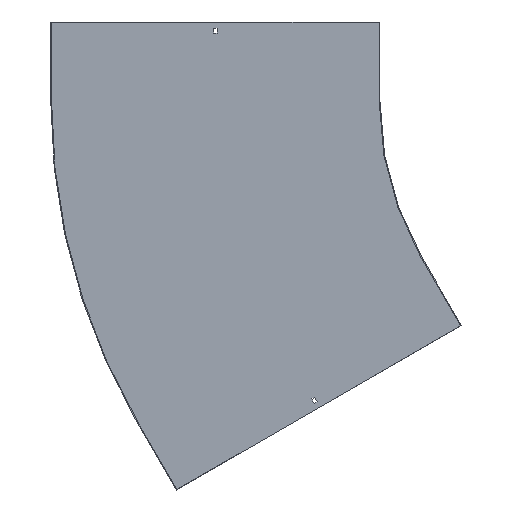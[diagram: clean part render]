
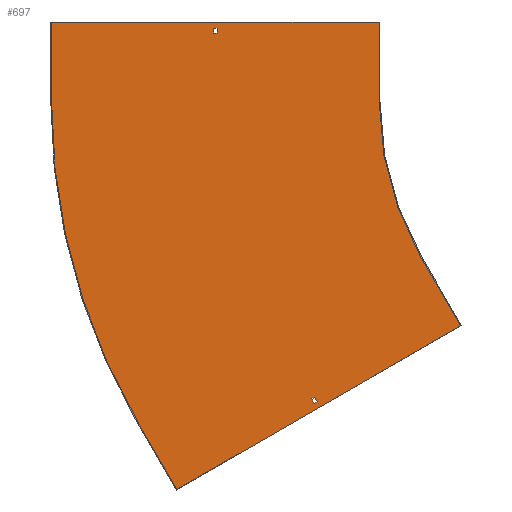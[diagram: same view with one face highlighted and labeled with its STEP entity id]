
A CAD part, front view. The second image highlights one B-rep face of the part: STEP entity #697.
In plain terms, the highlighted planar face has unit normal (0, -1, 0).
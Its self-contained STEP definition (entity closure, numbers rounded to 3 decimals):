
#6 = EDGE_LOOP ( 'NONE', ( #72, #561, #757, #704 ) ) ;
#11 = EDGE_CURVE ( 'NONE', #64, #202, #39, .T. ) ;
#21 = LINE ( 'NONE', #294, #384 ) ;
#28 = VECTOR ( 'NONE', #166, 1000. ) ;
#38 = LINE ( 'NONE', #501, #759 ) ;
#39 = LINE ( 'NONE', #703, #28 ) ;
#42 = LINE ( 'NONE', #842, #300 ) ;
#51 = CARTESIAN_POINT ( 'NONE',  ( -510.955, -1.5, -295. ) ) ;
#53 = EDGE_CURVE ( 'NONE', #118, #194, #42, .T. ) ;
#61 = EDGE_CURVE ( 'NONE', #629, #506, #516, .T. ) ;
#64 = VERTEX_POINT ( 'NONE', #778 ) ;
#66 = DIRECTION ( 'NONE',  ( 0., 0., 1. ) ) ;
#72 = ORIENTED_EDGE ( 'NONE', *, *, #705, .F. ) ;
#83 = CARTESIAN_POINT ( 'NONE',  ( -896.75, -1.5, 138. ) ) ;
#84 = VECTOR ( 'NONE', #365, 1000. ) ;
#91 = CARTESIAN_POINT ( 'NONE',  ( -776.608, -1.5, -448.375 ) ) ;
#95 = DIRECTION ( 'NONE',  ( 0.5, 0., -0.866 ) ) ;
#100 = EDGE_CURVE ( 'NONE', #288, #212, #850, .T. ) ;
#118 = VERTEX_POINT ( 'NONE', #51 ) ;
#130 = DIRECTION ( 'NONE',  ( 0., 0., -1. ) ) ;
#131 = VERTEX_POINT ( 'NONE', #467 ) ;
#146 = CARTESIAN_POINT ( 'NONE',  ( -903.25, -1.5, 138. ) ) ;
#153 = EDGE_CURVE ( 'NONE', #856, #131, #604, .T. ) ;
#156 = DIRECTION ( 'NONE',  ( -0.5, 0., 0.866 ) ) ;
#160 = EDGE_CURVE ( 'NONE', #131, #64, #792, .T. ) ;
#161 = PLANE ( 'NONE',  #527 ) ;
#164 = EDGE_CURVE ( 'NONE', #512, #856, #463, .T. ) ;
#165 = LINE ( 'NONE', #695, #248 ) ;
#166 = DIRECTION ( 'NONE',  ( 1., 0., 0. ) ) ;
#167 = VERTEX_POINT ( 'NONE', #654 ) ;
#169 = DIRECTION ( 'NONE',  ( 0., 0., -1. ) ) ;
#188 = VECTOR ( 'NONE', #668, 1000. ) ;
#192 = CARTESIAN_POINT ( 'NONE',  ( 0., -1.5, 138. ) ) ;
#193 = DIRECTION ( 'NONE',  ( 0., -1., 0. ) ) ;
#194 = VERTEX_POINT ( 'NONE', #397 ) ;
#202 = VERTEX_POINT ( 'NONE', #861 ) ;
#212 = VERTEX_POINT ( 'NONE', #83 ) ;
#215 = VERTEX_POINT ( 'NONE', #347 ) ;
#222 = DIRECTION ( 'NONE',  ( -0.866, 0., -0.5 ) ) ;
#238 = ORIENTED_EDGE ( 'NONE', *, *, #471, .T. ) ;
#241 = CARTESIAN_POINT ( 'NONE',  ( -903.25, -1.5, 129. ) ) ;
#247 = EDGE_CURVE ( 'NONE', #215, #167, #751, .T. ) ;
#248 = VECTOR ( 'NONE', #95, 1000. ) ;
#249 = VERTEX_POINT ( 'NONE', #809 ) ;
#251 = DIRECTION ( 'NONE',  ( 0.5, 0., -0.866 ) ) ;
#252 = CARTESIAN_POINT ( 'NONE',  ( 0., -1.5, 0. ) ) ;
#274 = CARTESIAN_POINT ( 'NONE',  ( -1210., -1.5, 0. ) ) ;
#277 = VECTOR ( 'NONE', #282, 1000. ) ;
#282 = DIRECTION ( 'NONE',  ( -1., 0., 0. ) ) ;
#288 = VERTEX_POINT ( 'NONE', #146 ) ;
#289 = CIRCLE ( 'NONE', #344, 590. ) ;
#294 = CARTESIAN_POINT ( 'NONE',  ( -590., -1.5, 150. ) ) ;
#300 = VECTOR ( 'NONE', #251, 1000. ) ;
#301 = CARTESIAN_POINT ( 'NONE',  ( -896.75, -1.5, 129. ) ) ;
#309 = LINE ( 'NONE', #442, #84 ) ;
#332 = DIRECTION ( 'NONE',  ( 1., 0., 0. ) ) ;
#343 = LINE ( 'NONE', #610, #277 ) ;
#344 = AXIS2_PLACEMENT_3D ( 'NONE', #252, #193, #655 ) ;
#347 = CARTESIAN_POINT ( 'NONE',  ( -712.108, -1.5, -560.092 ) ) ;
#349 = EDGE_CURVE ( 'NONE', #665, #288, #309, .T. ) ;
#353 = VECTOR ( 'NONE', #635, 1000. ) ;
#365 = DIRECTION ( 'NONE',  ( 0., 0., 1. ) ) ;
#368 = CARTESIAN_POINT ( 'NONE',  ( 69., -1.5, -119.512 ) ) ;
#384 = VECTOR ( 'NONE', #429, 1000. ) ;
#397 = CARTESIAN_POINT ( 'NONE',  ( -435.955, -1.5, -424.904 ) ) ;
#406 = DIRECTION ( 'NONE',  ( 0., 1., 0. ) ) ;
#413 = VECTOR ( 'NONE', #522, 1000. ) ;
#415 = VERTEX_POINT ( 'NONE', #301 ) ;
#429 = DIRECTION ( 'NONE',  ( 0., 0., -1. ) ) ;
#435 = ORIENTED_EDGE ( 'NONE', *, *, #53, .F. ) ;
#438 = VECTOR ( 'NONE', #156, 1000. ) ;
#442 = CARTESIAN_POINT ( 'NONE',  ( -903.25, -1.5, 0. ) ) ;
#445 = CARTESIAN_POINT ( 'NONE',  ( -707.608, -1.5, -567.887 ) ) ;
#451 = EDGE_LOOP ( 'NONE', ( #479, #497, #457, #714, #491, #435, #485, #725 ) ) ;
#457 = ORIENTED_EDGE ( 'NONE', *, *, #153, .F. ) ;
#459 = CARTESIAN_POINT ( 'NONE',  ( 0., -1.5, 0. ) ) ;
#462 = CARTESIAN_POINT ( 'NONE',  ( -1047.891, -1.5, -605. ) ) ;
#463 = LINE ( 'NONE', #538, #188 ) ;
#467 = CARTESIAN_POINT ( 'NONE',  ( -1210., -1.5, 0. ) ) ;
#471 = EDGE_CURVE ( 'NONE', #415, #665, #343, .T. ) ;
#475 = ORIENTED_EDGE ( 'NONE', *, *, #349, .T. ) ;
#479 = ORIENTED_EDGE ( 'NONE', *, *, #11, .F. ) ;
#485 = ORIENTED_EDGE ( 'NONE', *, *, #550, .F. ) ;
#491 = ORIENTED_EDGE ( 'NONE', *, *, #687, .F. ) ;
#497 = ORIENTED_EDGE ( 'NONE', *, *, #160, .F. ) ;
#501 = CARTESIAN_POINT ( 'NONE',  ( -434.656, -1.5, -424.154 ) ) ;
#506 = VERTEX_POINT ( 'NONE', #445 ) ;
#512 = VERTEX_POINT ( 'NONE', #526 ) ;
#516 = LINE ( 'NONE', #368, #353 ) ;
#522 = DIRECTION ( 'NONE',  ( 0., 0., -1. ) ) ;
#526 = CARTESIAN_POINT ( 'NONE',  ( -972.891, -1.5, -734.904 ) ) ;
#527 = AXIS2_PLACEMENT_3D ( 'NONE', #765, #769, #169 ) ;
#538 = CARTESIAN_POINT ( 'NONE',  ( -972.891, -1.5, -734.904 ) ) ;
#539 = CARTESIAN_POINT ( 'NONE',  ( -713.237, -1.5, -571.137 ) ) ;
#540 = EDGE_LOOP ( 'NONE', ( #614, #708, #238, #475 ) ) ;
#547 = CARTESIAN_POINT ( 'NONE',  ( 64.5, -1.5, -111.717 ) ) ;
#549 = EDGE_CURVE ( 'NONE', #212, #415, #843, .T. ) ;
#550 = EDGE_CURVE ( 'NONE', #249, #118, #289, .T. ) ;
#558 = FACE_BOUND ( 'NONE', #6, .T. ) ;
#561 = ORIENTED_EDGE ( 'NONE', *, *, #61, .F. ) ;
#562 = VECTOR ( 'NONE', #66, 1000. ) ;
#604 = CIRCLE ( 'NONE', #824, 1210. ) ;
#610 = CARTESIAN_POINT ( 'NONE',  ( 0., -1.5, 129. ) ) ;
#614 = ORIENTED_EDGE ( 'NONE', *, *, #100, .T. ) ;
#618 = VECTOR ( 'NONE', #332, 1000. ) ;
#629 = VERTEX_POINT ( 'NONE', #539 ) ;
#635 = DIRECTION ( 'NONE',  ( 0.866, 0., 0.5 ) ) ;
#654 = CARTESIAN_POINT ( 'NONE',  ( -717.737, -1.5, -563.342 ) ) ;
#655 = DIRECTION ( 'NONE',  ( 0., 0., -1. ) ) ;
#665 = VERTEX_POINT ( 'NONE', #241 ) ;
#668 = DIRECTION ( 'NONE',  ( -0.5, 0., 0.866 ) ) ;
#680 = DIRECTION ( 'NONE',  ( -0.866, 0., -0.5 ) ) ;
#687 = EDGE_CURVE ( 'NONE', #194, #512, #38, .T. ) ;
#691 = EDGE_CURVE ( 'NONE', #202, #249, #21, .T. ) ;
#695 = CARTESIAN_POINT ( 'NONE',  ( -782.237, -1.5, -451.625 ) ) ;
#697 = ADVANCED_FACE ( 'NONE', ( #558, #756, #762 ), #161, .T. ) ;
#699 = VECTOR ( 'NONE', #680, 1000. ) ;
#703 = CARTESIAN_POINT ( 'NONE',  ( -1211.5, -1.5, 150. ) ) ;
#704 = ORIENTED_EDGE ( 'NONE', *, *, #247, .F. ) ;
#705 = EDGE_CURVE ( 'NONE', #506, #215, #817, .T. ) ;
#708 = ORIENTED_EDGE ( 'NONE', *, *, #549, .T. ) ;
#714 = ORIENTED_EDGE ( 'NONE', *, *, #164, .F. ) ;
#718 = EDGE_CURVE ( 'NONE', #167, #629, #165, .T. ) ;
#725 = ORIENTED_EDGE ( 'NONE', *, *, #691, .F. ) ;
#751 = LINE ( 'NONE', #547, #699 ) ;
#756 = FACE_OUTER_BOUND ( 'NONE', #451, .T. ) ;
#757 = ORIENTED_EDGE ( 'NONE', *, *, #718, .F. ) ;
#759 = VECTOR ( 'NONE', #222, 1000. ) ;
#762 = FACE_BOUND ( 'NONE', #540, .T. ) ;
#765 = CARTESIAN_POINT ( 'NONE',  ( 0., -1.5, 0. ) ) ;
#769 = DIRECTION ( 'NONE',  ( 0., -1., 0. ) ) ;
#778 = CARTESIAN_POINT ( 'NONE',  ( -1210., -1.5, 150. ) ) ;
#792 = LINE ( 'NONE', #274, #562 ) ;
#793 = CARTESIAN_POINT ( 'NONE',  ( -896.75, -1.5, 0. ) ) ;
#809 = CARTESIAN_POINT ( 'NONE',  ( -590., -1.5, 0. ) ) ;
#817 = LINE ( 'NONE', #91, #438 ) ;
#824 = AXIS2_PLACEMENT_3D ( 'NONE', #459, #406, #130 ) ;
#842 = CARTESIAN_POINT ( 'NONE',  ( -510.955, -1.5, -295. ) ) ;
#843 = LINE ( 'NONE', #793, #413 ) ;
#850 = LINE ( 'NONE', #192, #618 ) ;
#856 = VERTEX_POINT ( 'NONE', #462 ) ;
#861 = CARTESIAN_POINT ( 'NONE',  ( -590., -1.5, 150. ) ) ;
